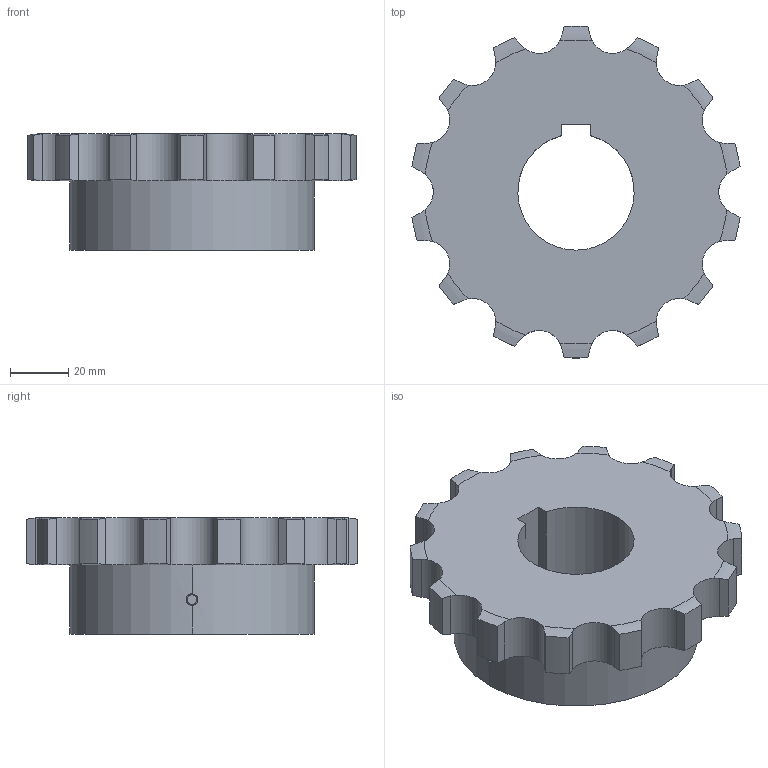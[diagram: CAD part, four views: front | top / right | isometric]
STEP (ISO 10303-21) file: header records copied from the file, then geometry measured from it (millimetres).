
FILE_DESCRIPTION((''),'2;1');
FILE_NAME('510-501-4014_PRT','2021-02-13T',('Brieden'),('Brieden'),'PRO/ENGINEER BY PARAMETRIC TECHNOLOGY CORPORATION, 2010160','PRO/ENGINEER BY PARAMETRIC TECHNOLOGY CORPORATION, 2010160','');
FILE_SCHEMA(('AUTOMOTIVE_DESIGN { 1 0 10303 214 1 1 1 1 }'));
Length unit declared in the file: millimetre
Products named in the file (1): 510-501-4014_PRT
Bounding box: 112.81 x 114.12 x 40 mm (x, y, z)
Volume: 223038.6 mm3; surface area: 34220.9 mm2
Topology: 1 solids, 1 shells, 105 faces, 297 edges, 196 vertices
Faces by surface type: cylinder 63, torus 28, plane 8, bspline 6
Entity records: 5120 total; most frequent: CARTESIAN_POINT 1605, ORIENTED_EDGE 594, DIRECTION 465, PRESENTATION_STYLE_ASSIGNMENT 298, STYLED_ITEM 298, CURVE_STYLE 297, EDGE_CURVE 297, VERTEX_POINT 196
